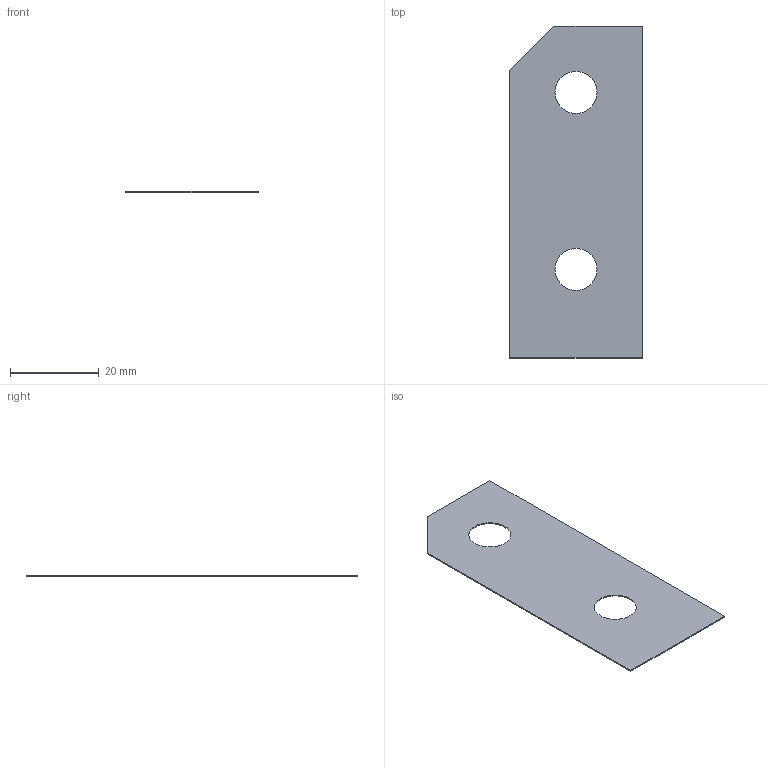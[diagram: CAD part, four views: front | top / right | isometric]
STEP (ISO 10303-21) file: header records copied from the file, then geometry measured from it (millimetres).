
FILE_DESCRIPTION(/* description */ ('PROTECTION MYLAR CENTRALE','CAx-IF Rec.Pracs.---Representation and Presentation of Product Manufacturing Information (PMI)---4.0---2014-10-13'),/* implementation_level */ '2;1');
FILE_NAME(/* name */ 'vv110320-A.stp',/* time_stamp */ '2025-09-26T17:23:23+02:00',/* author */ ('mmartin'),/* organization */ (''),/* preprocessor_version */ 'ST-DEVELOPER v20',/* originating_system */ 'Autodesk Inventor 2025',/* authorisation */ '');
FILE_SCHEMA (('AP242_MANAGED_MODEL_BASED_3D_ENGINEERING_MIM_LF { 1 0 10303 442 1 1 4 }'));
Length unit declared in the file: millimetre
Products named in the file (1): VICTOR.V.11.03.20
Bounding box: 30 x 75 x 0.25 mm (x, y, z)
Volume: 514.6 mm3; surface area: 4182.4 mm2
Topology: 1 solids, 1 shells, 9 faces, 21 edges, 14 vertices
Faces by surface type: plane 7, cylinder 2
Full cylindrical faces by diameter (mm): 9.5 x2
Entity records: 422 total; most frequent: CARTESIAN_POINT 76, DIRECTION 59, ORIENTED_EDGE 42, EDGE_CURVE 21, AXIS2_PLACEMENT_3D 21, STYLED_ITEM 17, LINE 17, VECTOR 17
